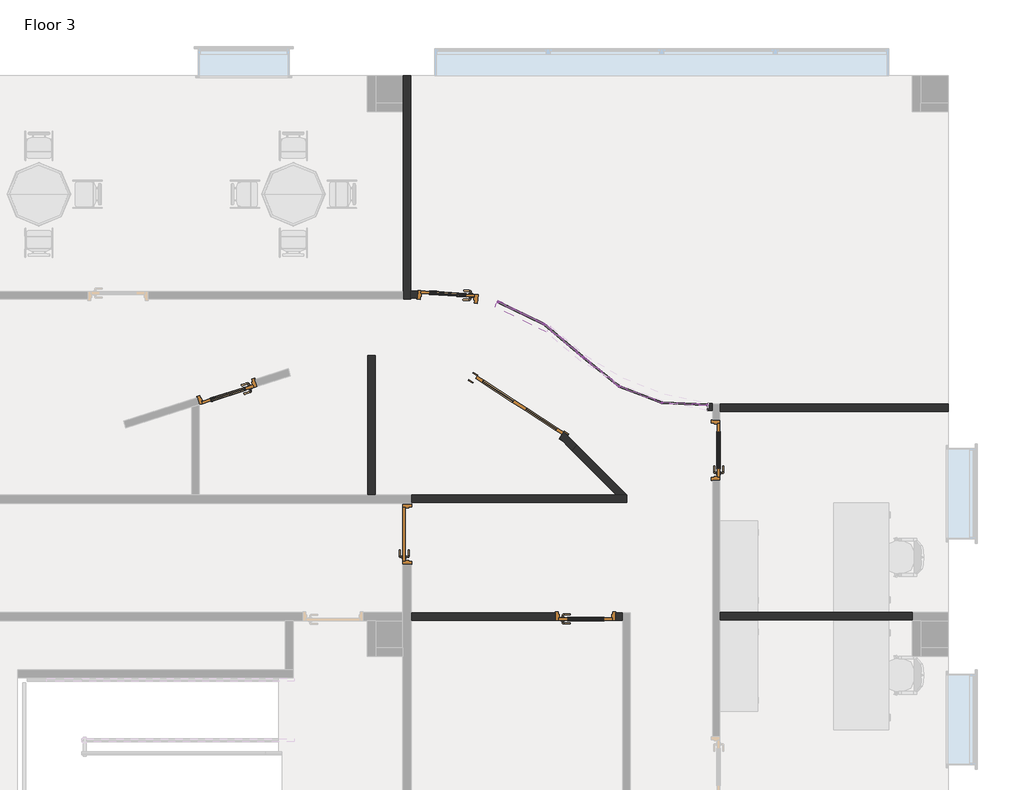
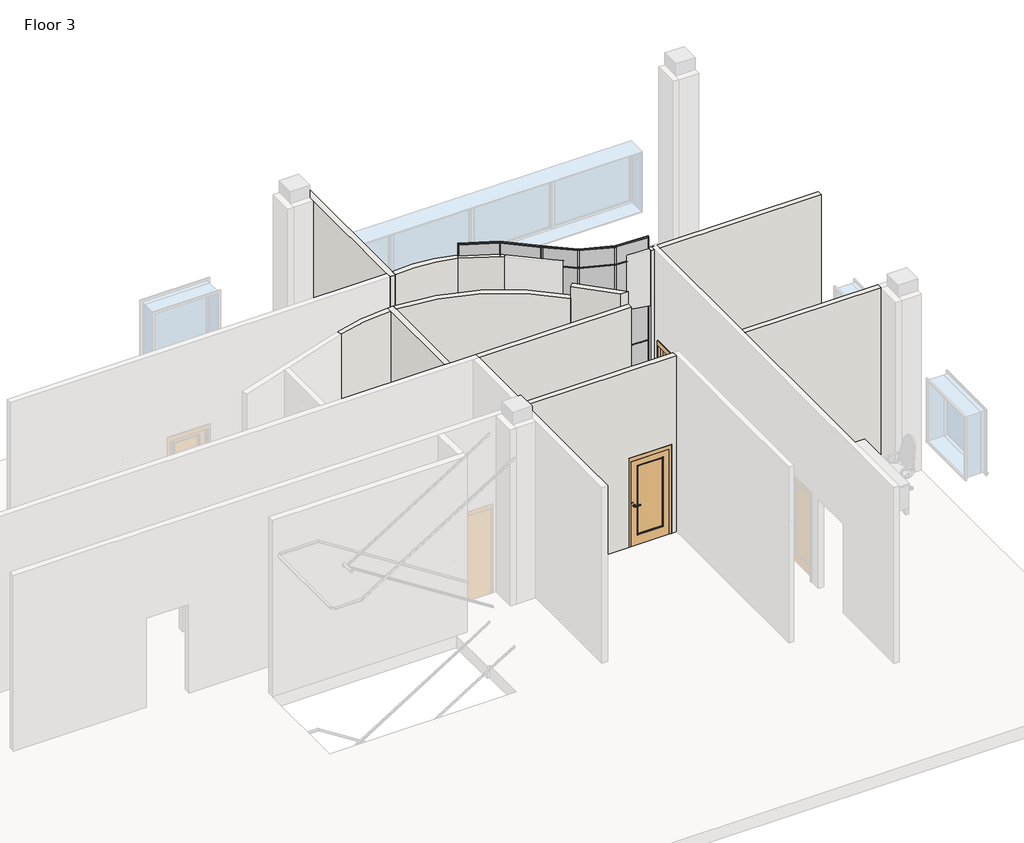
# One storey, part 4 of 6: 41 members, 15 plates, 12 walls, 6 doors.
"""IFC4 building model written with IfcOpenShell, lengths in millimetres."""

from ifc_helpers import new_model, si_unit, point, frame, frame_2d, origin, place, context, project, spatial, polyline, circle_curve, trimmed, segment, composite_curve, outline, extrude, faceted_brep, transform, mapped, element, save
from ifc_brep_helpers import plane_surface, cylinder_surface, revolved_surface, advanced_brep
from components import door_85c6249d, door_a46f4f49, door_b5f71497, door_dac99271, member_834e91f0, member_a9d6c361, member_b6f680d5, member_ea1833a9, member_997af995, member_99ddd2ca, member_efb85692, member_f42e476a, member_c703cf53, member_8995069b, member_6a737cc0, member_4057df82, member_b5c0ee63, member_2ca0dabc, member_3a403b9d, member_f4e4bb89, system_panel_glazed_970fcf6f, system_panel_glazed_1b99a4e4, system_panel_glazed_e012e687, system_panel_glazed_c5ee2139, system_panel_glazed_4739128b, system_panel_glazed_f263d929, system_panel_glazed_9a7f91f8, system_panel_glazed_b32ab771, system_panel_glazed_0122b756

model = new_model("IFC4")

# Units and contexts
model_context = context("Model", 3, world=origin())
ifc_project = project(units=[si_unit("LENGTHUNIT", "METRE", prefix="MILLI")], contexts=[model_context])

# Site, building, storey
site = spatial("IfcSite", under=ifc_project)
building = spatial("IfcBuilding", under=site)
storey = spatial("IfcBuildingStorey", under=building, Name="Floor 3", Elevation=10210.8)

# Doors
placement = place(None, origin())
door_shape = door_85c6249d(model_context)
element("IfcDoor", 1, ObjectType="Dbl Acting Dbl Glass 1 : 68\" x 84\"", at=placement, inside=storey, context=model_context, shape_type="MappedRepresentation", body=[
    mapped(door_shape, transform((54283.2279669, 51786.1208787, 10210.8), x_axis=(0.8403114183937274, -0.5421039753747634, 0.0), y_axis=(0.5421039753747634, 0.8403114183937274, 0.0), z_axis=(0.0, 0.0, 1.0))),
])
door_2_shape = door_a46f4f49(model_context)
element("IfcDoor", 2, ObjectType="Door-Passage-Single-Flush : 36\" x 84\"", at=placement, inside=storey, context=model_context, shape_type="MappedRepresentation", body=[
    mapped(door_2_shape, transform((52433.5692024, 49675.261889, 10210.8), x_axis=(0.0, 1.0, 0.0), y_axis=(-1.0, 0.0, 0.0), z_axis=(0.0, 0.0, 1.0))),
])
door_3_shape = door_b5f71497(model_context)
element("IfcDoor", 3, ObjectType="Door-Passage-Single-Full_Lite : 36\" x 84\"", at=placement, inside=storey, context=model_context, shape_type="MappedRepresentation", body=[
    mapped(door_3_shape, transform((53107.2341239, 53660.5521638, 10210.8), x_axis=(-0.9977672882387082, 0.06678651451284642, 0.0), y_axis=(-0.06678651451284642, -0.9977672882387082, 0.0), z_axis=(0.0, 0.0, 1.0))),
])
element("IfcDoor", 4, ObjectType="Door-Passage-Single-Full_Lite : 36\" x 84\"", at=placement, inside=storey, context=model_context, shape_type="MappedRepresentation", body=[
    mapped(door_3_shape, transform((57608.8192024, 51084.961889, 10210.8), x_axis=(0.0, 1.0, 0.0), y_axis=(-1.0, 0.0, 0.0), z_axis=(0.0, 0.0, 1.0))),
])
element("IfcDoor", 5, ObjectType="Door-Passage-Single-Full_Lite : 36\" x 84\"", at=placement, inside=storey, context=model_context, shape_type="MappedRepresentation", body=[
    mapped(door_3_shape, transform((55424.4192024, 48297.311889, 10210.8), x_axis=(1.0, 0.0, 0.0), y_axis=(0.0, 1.0, 0.0), z_axis=(0.0, 0.0, 1.0))),
])
door_4_shape = door_dac99271(model_context)
element("IfcDoor", 6, ObjectType="Door-Passage-Single-Full_Lite : 36\" x 84\"", at=placement, inside=storey, context=model_context, shape_type="MappedRepresentation", body=[
    mapped(door_4_shape, transform((49409.8382574, 52066.5551031, 10210.8), x_axis=(-0.9527579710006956, -0.303730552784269, 0.0), y_axis=(0.303730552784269, -0.9527579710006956, 0.0), z_axis=(0.0, 0.0, 1.0))),
])

# Members
member_shape = member_834e91f0(model_context)
element("IfcMember", 7, ObjectType="Rectangular Mullion1 : 1\" Square", at=placement, inside=storey, context=model_context, shape_type="MappedRepresentation", body=[
    mapped(member_shape, transform((55370.0845568, 52611.7453813, 14935.2), x_axis=(0.0, 0.0, 1.0), y_axis=(-0.6484934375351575, -0.7612202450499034, 0.0), z_axis=(0.7612202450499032, -0.6484934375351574, 0.0))),
])
member_2_shape = member_a9d6c361(model_context)
element("IfcMember", 8, ObjectType="Rectangular Mullion1 : 1\" Square", at=placement, inside=storey, context=model_context, shape_type="MappedRepresentation", body=[
    mapped(member_2_shape, transform((54710.7323367, 53173.4561221, 14935.2), x_axis=(0.0, 0.0, 1.0), y_axis=(-0.43160178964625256, -0.9020642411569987, 0.0), z_axis=(0.9020642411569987, -0.43160178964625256, 0.0))),
])
element("IfcMember", 9, ObjectType="Rectangular Mullion1 : 1\" Square", at=placement, inside=storey, context=model_context, shape_type="MappedRepresentation", body=[
    mapped(member_shape, transform((53929.3841475, 53547.3000917, 10210.8), x_axis=(0.0, 0.0, -1.0), y_axis=(-0.43160178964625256, -0.9020642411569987, 0.0), z_axis=(-0.9020642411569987, 0.43160178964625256, 0.0))),
])
element("IfcMember", 10, ObjectType="Rectangular Mullion1 : 1\" Square", at=placement, inside=storey, context=model_context, shape_type="MappedRepresentation", body=[
    mapped(member_2_shape, transform((54710.7323367, 53173.4561221, 10210.8), x_axis=(0.0, 0.0, -1.0), y_axis=(-0.6484934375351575, -0.7612202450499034, 0.0), z_axis=(-0.7612202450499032, 0.6484934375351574, 0.0))),
])
member_3_shape = member_b6f680d5(model_context)
element("IfcMember", 11, ObjectType="Rectangular Mullion1 : 1\" Square", at=placement, inside=storey, context=model_context, shape_type="MappedRepresentation", body=[
    mapped(member_3_shape, transform((54710.7323367, 53173.4561221, 12344.4), x_axis=(0.0, 0.0, 1.0), y_axis=(-0.43160178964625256, -0.9020642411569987, 0.0), z_axis=(0.9020642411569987, -0.43160178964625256, 0.0))),
])
member_4_shape = member_ea1833a9(model_context)
element("IfcMember", 12, ObjectType="Rectangular Mullion1 : 1\" Square", at=placement, inside=storey, context=model_context, shape_type="MappedRepresentation", body=[
    mapped(member_4_shape, transform((55350.7495626, 52628.2171146, 12344.4), x_axis=(0.0, 0.0, 1.0), y_axis=(-0.6484934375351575, -0.7612202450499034, 0.0), z_axis=(0.7612202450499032, -0.6484934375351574, 0.0))),
])
member_5_shape = member_997af995(model_context)
element("IfcMember", 13, ObjectType="Rectangular Mullion1 : 1\" Square", at=placement, inside=storey, context=model_context, shape_type="MappedRepresentation", body=[
    mapped(member_5_shape, transform((54710.7323367, 53173.4561221, 10236.2), x_axis=(0.8386830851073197, -0.5446197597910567, 0.0), y_axis=(-0.5446197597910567, -0.8386830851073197, 0.0), z_axis=(0.0, 0.0, -1.0))),
])
element("IfcMember", 14, ObjectType="Rectangular Mullion1 : 1\" Square", at=placement, inside=storey, context=model_context, shape_type="MappedRepresentation", body=[
    mapped(member_5_shape, transform((55973.7447178, 52125.501763, 10236.2), x_axis=(0.867376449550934, -0.4976525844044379, 0.0), y_axis=(-0.4976525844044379, -0.867376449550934, 0.0), z_axis=(0.0, 0.0, -1.0))),
])
element("IfcMember", 15, ObjectType="Rectangular Mullion1 : 1\" Square", at=placement, inside=storey, context=model_context, shape_type="MappedRepresentation", body=[
    mapped(member_5_shape, transform((56698.1784145, 51849.7586549, 10236.2), x_axis=(0.9787526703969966, -0.20504441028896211, 0.0), y_axis=(-0.20504441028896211, -0.9787526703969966, 0.0), z_axis=(0.0, 0.0, -1.0))),
])
member_6_shape = member_99ddd2ca(model_context)
element("IfcMember", 16, ObjectType="Rectangular Mullion1 : 1\" Square", at=placement, inside=storey, context=model_context, shape_type="MappedRepresentation", body=[
    mapped(member_6_shape, transform((54710.7323367, 53173.4561221, 12357.1), x_axis=(0.8386830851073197, -0.5446197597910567, 0.0), y_axis=(-0.5446197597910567, -0.8386830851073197, 0.0), z_axis=(0.0, 0.0, -1.0))),
])
element("IfcMember", 17, ObjectType="Rectangular Mullion1 : 1\" Square", at=placement, inside=storey, context=model_context, shape_type="MappedRepresentation", body=[
    mapped(member_6_shape, transform((55973.7447178, 52125.501763, 12357.1), x_axis=(0.867376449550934, -0.4976525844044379, 0.0), y_axis=(-0.4976525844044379, -0.867376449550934, 0.0), z_axis=(0.0, 0.0, -1.0))),
])
element("IfcMember", 18, ObjectType="Rectangular Mullion1 : 1\" Square", at=placement, inside=storey, context=model_context, shape_type="MappedRepresentation", body=[
    mapped(member_6_shape, transform((56698.1784145, 51849.7586549, 12357.1), x_axis=(0.9787526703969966, -0.20504441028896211, 0.0), y_axis=(-0.20504441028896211, -0.9787526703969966, 0.0), z_axis=(0.0, 0.0, -1.0))),
])
member_7_shape = member_efb85692(model_context)
element("IfcMember", 19, ObjectType="Rectangular Mullion1 : 1\" Square", at=placement, inside=storey, context=model_context, shape_type="MappedRepresentation", body=[
    mapped(member_7_shape, transform((54710.7323367, 53173.4561221, 14490.7), x_axis=(0.8386830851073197, -0.5446197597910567, 0.0), y_axis=(-0.5446197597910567, -0.8386830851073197, 0.0), z_axis=(0.0, 0.0, -1.0))),
])
element("IfcMember", 20, ObjectType="Rectangular Mullion1 : 1\" Square", at=placement, inside=storey, context=model_context, shape_type="MappedRepresentation", body=[
    mapped(member_7_shape, transform((55973.7447178, 52125.501763, 14490.7), x_axis=(0.867376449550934, -0.4976525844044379, 0.0), y_axis=(-0.4976525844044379, -0.867376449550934, 0.0), z_axis=(0.0, 0.0, -1.0))),
])
element("IfcMember", 21, ObjectType="Rectangular Mullion1 : 1\" Square", at=placement, inside=storey, context=model_context, shape_type="MappedRepresentation", body=[
    mapped(member_7_shape, transform((56698.1784145, 51849.7586549, 14490.7), x_axis=(0.9787526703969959, -0.20504441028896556, 0.0), y_axis=(-0.20504441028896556, -0.9787526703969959, 0.0), z_axis=(0.0, 0.0, -1.0))),
])
element("IfcMember", 22, ObjectType="Rectangular Mullion1 : 1\" Square", at=placement, inside=storey, context=model_context, shape_type="MappedRepresentation", body=[
    mapped(member_3_shape, transform((54710.7323367, 53173.4561221, 14478.0), x_axis=(0.0, 0.0, 1.0), y_axis=(-0.43160178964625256, -0.9020642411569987, 0.0), z_axis=(0.9020642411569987, -0.43160178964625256, 0.0))),
])
element("IfcMember", 23, ObjectType="Rectangular Mullion1 : 1\" Square", at=placement, inside=storey, context=model_context, shape_type="MappedRepresentation", body=[
    mapped(member_4_shape, transform((55350.7495626, 52628.2171146, 14478.0), x_axis=(0.0, 0.0, 1.0), y_axis=(-0.6484934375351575, -0.7612202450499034, 0.0), z_axis=(0.7612202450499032, -0.6484934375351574, 0.0))),
])
member_8_shape = member_f42e476a(model_context)
element("IfcMember", 24, ObjectType="Rectangular Mullion1 : 1\" Square", at=placement, inside=storey, context=model_context, shape_type="MappedRepresentation", body=[
    mapped(member_8_shape, transform((57472.373613, 51811.5455547, 14935.2), x_axis=(0.0, 0.0, 1.0), y_axis=(-0.049298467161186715, -0.9987840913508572, 0.0), z_axis=(0.9987840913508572, -0.049298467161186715, 0.0))),
])
member_9_shape = member_c703cf53(model_context)
element("IfcMember", 25, ObjectType="Rectangular Mullion1 : 1\" Square", at=placement, inside=storey, context=model_context, shape_type="MappedRepresentation", body=[
    mapped(member_9_shape, transform((55973.7447178, 52125.501763, 14935.2), x_axis=(0.0, 0.0, 1.0), y_axis=(-0.6272996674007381, -0.7787779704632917, 0.0), z_axis=(0.7787779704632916, -0.627299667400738, 0.0))),
])
member_10_shape = member_8995069b(model_context)
element("IfcMember", 26, ObjectType="Rectangular Mullion1 : 1\" Square", at=placement, inside=storey, context=model_context, shape_type="MappedRepresentation", body=[
    mapped(member_10_shape, transform((56698.1784145, 51849.7586549, 14935.2), x_axis=(0.0, 0.0, 1.0), y_axis=(-0.3557343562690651, -0.9345871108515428, 0.0), z_axis=(0.9345871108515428, -0.3557343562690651, 0.0))),
])
element("IfcMember", 27, ObjectType="Rectangular Mullion1 : 1\" Square", at=placement, inside=storey, context=model_context, shape_type="MappedRepresentation", body=[
    mapped(member_8_shape, transform((55370.0845568, 52611.7453813, 10210.8), x_axis=(0.0, 0.0, -1.0), y_axis=(-0.6272996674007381, -0.7787779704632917, 0.0), z_axis=(-0.7787779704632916, 0.627299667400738, 0.0))),
])
element("IfcMember", 28, ObjectType="Rectangular Mullion1 : 1\" Square", at=placement, inside=storey, context=model_context, shape_type="MappedRepresentation", body=[
    mapped(member_10_shape, transform((55973.7447178, 52125.501763, 10210.8), x_axis=(0.0, 0.0, -1.0), y_axis=(-0.3557343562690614, -0.9345871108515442, 0.0), z_axis=(-0.9345871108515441, 0.35573435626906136, 0.0))),
])
element("IfcMember", 29, ObjectType="Rectangular Mullion1 : 1\" Square", at=placement, inside=storey, context=model_context, shape_type="MappedRepresentation", body=[
    mapped(member_9_shape, transform((56698.1784145, 51849.7586549, 10210.8), x_axis=(0.0, 0.0, -1.0), y_axis=(-0.049298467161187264, -0.9987840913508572, 0.0), z_axis=(-0.9987840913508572, 0.049298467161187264, 0.0))),
])
member_11_shape = member_6a737cc0(model_context)
element("IfcMember", 30, ObjectType="Rectangular Mullion1 : 1\" Square", at=placement, inside=storey, context=model_context, shape_type="MappedRepresentation", body=[
    mapped(member_11_shape, transform((55973.7447178, 52125.501763, 12344.4), x_axis=(0.0, 0.0, 1.0), y_axis=(-0.6272996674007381, -0.7787779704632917, 0.0), z_axis=(0.7787779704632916, -0.627299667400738, 0.0))),
])
member_12_shape = member_4057df82(model_context)
element("IfcMember", 31, ObjectType="Rectangular Mullion1 : 1\" Square", at=placement, inside=storey, context=model_context, shape_type="MappedRepresentation", body=[
    mapped(member_12_shape, transform((56698.1784145, 51849.7586549, 12344.4), x_axis=(0.0, 0.0, 1.0), y_axis=(-0.3557343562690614, -0.9345871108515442, 0.0), z_axis=(0.9345871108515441, -0.35573435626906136, 0.0))),
])
element("IfcMember", 32, ObjectType="Rectangular Mullion1 : 1\" Square", at=placement, inside=storey, context=model_context, shape_type="MappedRepresentation", body=[
    mapped(member_12_shape, transform((56698.1784145, 51849.7586549, 14478.0), x_axis=(0.0, 0.0, 1.0), y_axis=(-0.3557343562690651, -0.9345871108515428, 0.0), z_axis=(0.9345871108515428, -0.3557343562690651, 0.0))),
])
member_13_shape = member_b5c0ee63(model_context)
element("IfcMember", 33, ObjectType="Rectangular Mullion1 : 1\" Square", at=placement, inside=storey, context=model_context, shape_type="MappedRepresentation", body=[
    mapped(member_13_shape, transform((57447.0044971, 51812.7977357, 12344.4), x_axis=(0.0, 0.0, 1.0), y_axis=(-0.049298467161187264, -0.9987840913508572, 0.0), z_axis=(0.9987840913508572, -0.049298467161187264, 0.0))),
])
element("IfcMember", 34, ObjectType="Rectangular Mullion1 : 1\" Square", at=placement, inside=storey, context=model_context, shape_type="MappedRepresentation", body=[
    mapped(member_11_shape, transform((55973.7447178, 52125.501763, 14478.0), x_axis=(0.0, 0.0, 1.0), y_axis=(-0.6272996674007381, -0.7787779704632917, 0.0), z_axis=(0.7787779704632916, -0.627299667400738, 0.0))),
])
element("IfcMember", 35, ObjectType="Rectangular Mullion1 : 1\" Square", at=placement, inside=storey, context=model_context, shape_type="MappedRepresentation", body=[
    mapped(member_13_shape, transform((57447.0044971, 51812.7977357, 14478.0), x_axis=(0.0, 0.0, 1.0), y_axis=(-0.049298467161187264, -0.9987840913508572, 0.0), z_axis=(0.9987840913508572, -0.049298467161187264, 0.0))),
])
member_14_shape = member_2ca0dabc(model_context)
element("IfcMember", 36, ObjectType="Rectangular Mullion1 : 1\" Square", at=placement, inside=storey, context=model_context, shape_type="MappedRepresentation", body=[
    mapped(member_14_shape, transform((55370.0845568, 52611.7453813, 10236.2), x_axis=(0.7612202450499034, -0.6484934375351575, 0.0), y_axis=(-0.6484934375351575, -0.7612202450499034, 0.0), z_axis=(0.0, 0.0, -1.0))),
])
element("IfcMember", 37, ObjectType="Rectangular Mullion1 : 1\" Square", at=placement, inside=storey, context=model_context, shape_type="MappedRepresentation", body=[
    mapped(member_14_shape, transform((57472.373613, 51811.5455547, 10236.2), x_axis=(0.9987840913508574, -0.0492984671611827, 0.0), y_axis=(-0.0492984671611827, -0.9987840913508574, 0.0), z_axis=(0.0, 0.0, -1.0))),
])
member_15_shape = member_3a403b9d(model_context)
element("IfcMember", 38, ObjectType="Rectangular Mullion1 : 1\" Square", at=placement, inside=storey, context=model_context, shape_type="MappedRepresentation", body=[
    mapped(member_15_shape, transform((55370.0845568, 52611.7453813, 12344.4), x_axis=(0.7612202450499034, -0.6484934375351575, 0.0), y_axis=(-0.6484934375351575, -0.7612202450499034, 0.0), z_axis=(0.0, 0.0, -1.0))),
])
element("IfcMember", 39, ObjectType="Rectangular Mullion1 : 1\" Square", at=placement, inside=storey, context=model_context, shape_type="MappedRepresentation", body=[
    mapped(member_15_shape, transform((57472.373613, 51811.5455547, 12344.4), x_axis=(0.9987840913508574, -0.0492984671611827, 0.0), y_axis=(-0.0492984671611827, -0.9987840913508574, 0.0), z_axis=(0.0, 0.0, -1.0))),
])
member_16_shape = member_f4e4bb89(model_context)
element("IfcMember", 40, ObjectType="Rectangular Mullion1 : 1\" Square", at=placement, inside=storey, context=model_context, shape_type="MappedRepresentation", body=[
    mapped(member_16_shape, transform((53929.3841475, 53547.3000917, 14909.8), x_axis=(-0.9020642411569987, 0.43160178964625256, 0.0), y_axis=(-0.43160178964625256, -0.9020642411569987, 0.0), z_axis=(0.0, 0.0, 1.0))),
])
element("IfcMember", 41, ObjectType="Rectangular Mullion1 : 1\" Square", at=placement, inside=storey, context=model_context, shape_type="MappedRepresentation", body=[
    mapped(member_16_shape, transform((55370.0845568, 52611.7453813, 14909.8), x_axis=(-0.7787779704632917, 0.6272996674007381, 0.0), y_axis=(-0.6272996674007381, -0.7787779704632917, 0.0), z_axis=(0.0, 0.0, 1.0))),
])
element("IfcMember", 42, ObjectType="Rectangular Mullion1 : 1\" Square", at=placement, inside=storey, context=model_context, shape_type="MappedRepresentation", body=[
    mapped(member_14_shape, transform((53929.3841475, 53547.3000917, 12344.4), x_axis=(-0.9020642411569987, 0.43160178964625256, 0.0), y_axis=(-0.43160178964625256, -0.9020642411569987, 0.0), z_axis=(0.0, 0.0, 1.0))),
])
element("IfcMember", 43, ObjectType="Rectangular Mullion1 : 1\" Square", at=placement, inside=storey, context=model_context, shape_type="MappedRepresentation", body=[
    mapped(member_14_shape, transform((55370.0845568, 52611.7453813, 12344.4), x_axis=(-0.7787779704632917, 0.6272996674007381, 0.0), y_axis=(-0.6272996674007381, -0.7787779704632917, 0.0), z_axis=(0.0, 0.0, 1.0))),
])
element("IfcMember", 44, ObjectType="Rectangular Mullion1 : 1\" Square", at=placement, inside=storey, context=model_context, shape_type="MappedRepresentation", body=[
    mapped(member_16_shape, transform((55370.0845568, 52611.7453813, 14478.0), x_axis=(0.7612202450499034, -0.6484934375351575, 0.0), y_axis=(-0.6484934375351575, -0.7612202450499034, 0.0), z_axis=(0.0, 0.0, -1.0))),
])
element("IfcMember", 45, ObjectType="Rectangular Mullion1 : 1\" Square", at=placement, inside=storey, context=model_context, shape_type="MappedRepresentation", body=[
    mapped(member_16_shape, transform((57472.373613, 51811.5455547, 14478.0), x_axis=(0.9987840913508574, -0.049298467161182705, 0.0), y_axis=(-0.049298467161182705, -0.9987840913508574, 0.0), z_axis=(0.0, 0.0, -1.0))),
])
element("IfcMember", 46, ObjectType="Rectangular Mullion1 : 1\" Square", at=placement, inside=storey, context=model_context, shape_type="MappedRepresentation", body=[
    mapped(member_15_shape, transform((53929.3841475, 53547.3000917, 14478.0), x_axis=(-0.9020642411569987, 0.43160178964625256, 0.0), y_axis=(-0.43160178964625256, -0.9020642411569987, 0.0), z_axis=(0.0, 0.0, 1.0))),
])
element("IfcMember", 47, ObjectType="Rectangular Mullion1 : 1\" Square", at=placement, inside=storey, context=model_context, shape_type="MappedRepresentation", body=[
    mapped(member_15_shape, transform((55370.0845568, 52611.7453813, 14478.0), x_axis=(-0.7787779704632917, 0.6272996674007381, 0.0), y_axis=(-0.6272996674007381, -0.7787779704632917, 0.0), z_axis=(0.0, 0.0, 1.0))),
])

# Plates
system_panel_glazed_shape = system_panel_glazed_970fcf6f(model_context)
element("IfcPlate", 48, ObjectType="System Panel : Glazed", at=placement, inside=storey, context=model_context, shape_type="MappedRepresentation", body=[
    mapped(system_panel_glazed_shape, transform((54325.7863501, 53357.6374355, 10236.2), x_axis=(0.9020642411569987, -0.43160178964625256, 0.0), y_axis=(0.43160178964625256, 0.9020642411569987, 0.0), z_axis=(0.0, 0.0, 1.0))),
])
element("IfcPlate", 49, ObjectType="System Panel : Glazed", at=placement, inside=storey, context=model_context, shape_type="MappedRepresentation", body=[
    mapped(system_panel_glazed_shape, transform((55035.5746982, 52896.718685, 10236.2), x_axis=(0.7612202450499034, -0.6484934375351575, 0.0), y_axis=(0.6484934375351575, 0.7612202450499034, 0.0), z_axis=(0.0, 0.0, 1.0))),
])
system_panel_glazed_2_shape = system_panel_glazed_1b99a4e4(model_context)
element("IfcPlate", 50, ObjectType="System Panel : Glazed", at=placement, inside=storey, context=model_context, shape_type="MappedRepresentation", body=[
    mapped(system_panel_glazed_2_shape, transform((54325.7863501, 53357.6374355, 12357.1), x_axis=(0.9020642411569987, -0.43160178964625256, 0.0), y_axis=(0.43160178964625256, 0.9020642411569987, 0.0), z_axis=(0.0, 0.0, 1.0))),
])
element("IfcPlate", 51, ObjectType="System Panel : Glazed", at=placement, inside=storey, context=model_context, shape_type="MappedRepresentation", body=[
    mapped(system_panel_glazed_2_shape, transform((55035.5746982, 52896.718685, 12357.1), x_axis=(0.7612202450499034, -0.6484934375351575, 0.0), y_axis=(0.6484934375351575, 0.7612202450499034, 0.0), z_axis=(0.0, 0.0, 1.0))),
])
system_panel_glazed_3_shape = system_panel_glazed_e012e687(model_context)
element("IfcPlate", 52, ObjectType="System Panel : Glazed", at=placement, inside=storey, context=model_context, shape_type="MappedRepresentation", body=[
    mapped(system_panel_glazed_3_shape, transform((55676.8598774, 52364.6402193, 10236.2), x_axis=(0.7787779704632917, -0.6272996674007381, 0.0), y_axis=(0.6272996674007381, 0.7787779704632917, 0.0), z_axis=(0.0, 0.0, 1.0))),
])
element("IfcPlate", 53, ObjectType="System Panel : Glazed", at=placement, inside=storey, context=model_context, shape_type="MappedRepresentation", body=[
    mapped(system_panel_glazed_3_shape, transform((57078.9337348, 51830.96515, 10236.2), x_axis=(0.9987840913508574, -0.0492984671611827, 0.0), y_axis=(0.0492984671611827, 0.9987840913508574, 0.0), z_axis=(0.0, 0.0, 1.0))),
])
system_panel_glazed_4_shape = system_panel_glazed_c5ee2139(model_context)
element("IfcPlate", 54, ObjectType="System Panel : Glazed", at=placement, inside=storey, context=model_context, shape_type="MappedRepresentation", body=[
    mapped(system_panel_glazed_4_shape, transform((56335.9615662, 51987.6302089, 10236.2), x_axis=(0.9345871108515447, -0.35573435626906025, 0.0), y_axis=(0.35573435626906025, 0.9345871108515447, 0.0), z_axis=(0.0, 0.0, 1.0))),
])
system_panel_glazed_5_shape = system_panel_glazed_4739128b(model_context)
element("IfcPlate", 55, ObjectType="System Panel : Glazed", at=placement, inside=storey, context=model_context, shape_type="MappedRepresentation", body=[
    mapped(system_panel_glazed_5_shape, transform((55676.8598774, 52364.6402193, 12357.1), x_axis=(0.7787779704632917, -0.6272996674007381, 0.0), y_axis=(0.6272996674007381, 0.7787779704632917, 0.0), z_axis=(0.0, 0.0, 1.0))),
])
element("IfcPlate", 56, ObjectType="System Panel : Glazed", at=placement, inside=storey, context=model_context, shape_type="MappedRepresentation", body=[
    mapped(system_panel_glazed_5_shape, transform((57078.9337348, 51830.96515, 12357.1), x_axis=(0.9987840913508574, -0.0492984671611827, 0.0), y_axis=(0.0492984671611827, 0.9987840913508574, 0.0), z_axis=(0.0, 0.0, 1.0))),
])
system_panel_glazed_6_shape = system_panel_glazed_f263d929(model_context)
element("IfcPlate", 57, ObjectType="System Panel : Glazed", at=placement, inside=storey, context=model_context, shape_type="MappedRepresentation", body=[
    mapped(system_panel_glazed_6_shape, transform((56335.9615662, 51987.6302089, 12357.1), x_axis=(0.9345871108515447, -0.35573435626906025, 0.0), y_axis=(0.35573435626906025, 0.9345871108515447, 0.0), z_axis=(0.0, 0.0, 1.0))),
])
system_panel_glazed_7_shape = system_panel_glazed_9a7f91f8(model_context)
element("IfcPlate", 58, ObjectType="System Panel : Glazed", at=placement, inside=storey, context=model_context, shape_type="MappedRepresentation", body=[
    mapped(system_panel_glazed_7_shape, transform((54325.7863501, 53357.6374355, 14490.7), x_axis=(0.9020642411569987, -0.43160178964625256, 0.0), y_axis=(0.43160178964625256, 0.9020642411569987, 0.0), z_axis=(0.0, 0.0, 1.0))),
])
element("IfcPlate", 59, ObjectType="System Panel : Glazed", at=placement, inside=storey, context=model_context, shape_type="MappedRepresentation", body=[
    mapped(system_panel_glazed_7_shape, transform((55035.5746982, 52896.718685, 14490.7), x_axis=(0.7612202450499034, -0.6484934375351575, 0.0), y_axis=(0.6484934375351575, 0.7612202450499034, 0.0), z_axis=(0.0, 0.0, 1.0))),
])
system_panel_glazed_8_shape = system_panel_glazed_b32ab771(model_context)
element("IfcPlate", 60, ObjectType="System Panel : Glazed", at=placement, inside=storey, context=model_context, shape_type="MappedRepresentation", body=[
    mapped(system_panel_glazed_8_shape, transform((55676.8598774, 52364.6402193, 14490.7), x_axis=(0.7787779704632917, -0.6272996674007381, 0.0), y_axis=(0.6272996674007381, 0.7787779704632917, 0.0), z_axis=(0.0, 0.0, 1.0))),
])
element("IfcPlate", 61, ObjectType="System Panel : Glazed", at=placement, inside=storey, context=model_context, shape_type="MappedRepresentation", body=[
    mapped(system_panel_glazed_8_shape, transform((57078.9337348, 51830.96515, 14490.7), x_axis=(0.9987840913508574, -0.049298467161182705, 0.0), y_axis=(0.049298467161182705, 0.9987840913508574, 0.0), z_axis=(0.0, 0.0, 1.0))),
])
system_panel_glazed_9_shape = system_panel_glazed_0122b756(model_context)
element("IfcPlate", 62, ObjectType="System Panel : Glazed", at=placement, inside=storey, context=model_context, shape_type="MappedRepresentation", body=[
    mapped(system_panel_glazed_9_shape, transform((56335.9615662, 51987.6302089, 14490.7), x_axis=(0.9345871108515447, -0.35573435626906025, 0.0), y_axis=(0.35573435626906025, 0.9345871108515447, 0.0), z_axis=(0.0, 0.0, 1.0))),
])

# Walls
element("IfcWall", 63, ObjectType="Interior - 4 7/8\" Partition (1-hr)", at=placement, inside=storey, context=model_context, shape_type="Brep", body=[
    faceted_brep([(52489.1317024, 53620.199389, 10210.8), (52489.1317024, 53627.7357637, 10210.8), (52489.1317024, 53752.4422892, 10210.8), (52489.1317024, 57366.699389, 10210.8), (52489.1317024, 57366.699389, 14630.4), (52489.1317024, 53752.4422892, 14630.4), (52489.1317024, 53627.7357637, 14630.4), (52489.1317024, 53620.199389, 14630.4), (52365.3067024, 53620.199389, 10210.8), (52365.3067024, 53620.199389, 14630.4), (52365.3067024, 53744.024389, 14630.4), (52365.3067024, 56768.211889, 14630.4), (52365.3067024, 56907.911889, 14630.4), (52365.3067024, 57366.699389, 14630.4), (52365.3067024, 57366.699389, 10210.8), (52365.3067024, 56907.911889, 10210.8), (52365.3067024, 56768.211889, 10210.8), (52365.3067024, 53744.024389, 10210.8)], [[[0, 1, 2, 3, 4, 5, 6, 7]], [[8, 9, 10, 11, 12, 13, 14, 15, 16, 17]], [[3, 2, 1, 0, 8, 17, 16, 15, 14]], [[0, 7, 9, 8]], [[4, 3, 14, 13]], [[7, 6, 5, 4, 13, 12, 11, 10, 9]]]),
])
element("IfcWall", 64, ObjectType="Interior - 4 7/8\" Partition (1-hr)", at=placement, inside=storey, context=model_context, shape_type="SweptSolid", body=[
    extrude(outline(polyline([(61502.9567024, 51734.249389), (57677.0817024, 51734.249389), (57677.0817024, 51858.074389), (61502.9567024, 51858.074389), (61502.9567024, 51734.249389)])), frame((0.0, 0.0, 10210.8), z_axis=(0.0, 0.0, 1.0), x_axis=(1.0, 0.0, 0.0)), (0.0, 0.0, 1.0), 4419.6),
])
element("IfcWall", 65, ObjectType="Interior - 4 7/8\" Partition (1-hr)", at=placement, inside=storey, context=model_context, shape_type="SweptSolid", body=[
    extrude(outline(polyline([(57677.0817024, 48360.811889), (60904.4692024, 48360.811889), (60904.4692024, 48236.986889), (57677.0817024, 48236.986889), (57677.0817024, 48360.811889)])), frame((0.0, 0.0, 10210.8), z_axis=(0.0, 0.0, 1.0), x_axis=(1.0, 0.0, 0.0)), (0.0, 0.0, 1.0), 4419.6),
])
element("IfcWall", 66, ObjectType="Interior - 4 7/8\" Partition (1-hr)", at=placement, inside=storey, context=model_context, shape_type="AdvancedBrep", body=[
    advanced_brep(
    [(52489.1317024, 53752.4422892, 10210.8), (52605.0241832, 53764.0363688, 10210.8), (52596.6575157, 53639.0412683, 10210.8), (52489.1317024, 53627.7357637, 10210.8), (53618.755748, 53696.1812701, 10210.8), (53948.6598073, 53606.1355113, 10210.8), (53910.1084878, 53488.4646722, 10210.8), (53610.3890806, 53571.1861695, 10210.8), (52605.0241832, 53764.0363688, 12446.0), (52489.1317024, 53752.4422892, 14630.4), (53948.6598073, 53606.1355113, 14630.4), (53948.6598073, 53606.1355113, 13258.8), (53618.755748, 53696.1812701, 12446.0), (52596.6575157, 53639.0412683, 12446.0), (53610.3890806, 53571.1861695, 12446.0), (53910.1084878, 53488.4646722, 13258.8), (53910.1084878, 53488.4646722, 14630.4), (52489.1317024, 53627.7357637, 14630.4)],
    [
        (0, 1, circle_curve(frame((52886.6031482, 50364.4021575, 10210.8), z_axis=(0.0, 0.0, -1.0), x_axis=(1.0, 0.0, 0.0)), 3411.2753457)),
        (1, 2),
        (2, 3, circle_curve(frame((52886.6031482, 50364.4021575, 10210.8), z_axis=(0.0, 0.0, 1.0), x_axis=(1.0, 0.0, 0.0)), 3287.4503457)),
        (3, 0),
        (4, 5, circle_curve(frame((52886.6031482, 50364.4021575, 10210.8), z_axis=(0.0, 0.0, -1.0), x_axis=(1.0, 0.0, 0.0)), 3411.2753457)),
        (5, 6),
        (6, 7, circle_curve(frame((52886.6031482, 50364.4021575, 10210.8), z_axis=(0.0, 0.0, 1.0), x_axis=(1.0, 0.0, 0.0)), 3287.4503457)),
        (7, 4),
        (8, 1),
        (0, 9),
        (9, 10, circle_curve(frame((52886.6031482, 50364.4021575, 14630.4), z_axis=(0.0, 0.0, -1.0), x_axis=(1.0, 0.0, 0.0)), 3411.2753457)),
        (10, 11),
        (11, 5),
        (4, 12),
        (12, 8, circle_curve(frame((52886.6031482, 50364.4021575, 12446.0), z_axis=(0.0, 0.0, 1.0), x_axis=(1.0, 0.0, 0.0)), 3411.2753457)),
        (2, 13),
        (13, 14, circle_curve(frame((52886.6031482, 50364.4021575, 12446.0), z_axis=(0.0, 0.0, -1.0), x_axis=(1.0, 0.0, 0.0)), 3287.4503457)),
        (14, 7),
        (6, 15),
        (15, 16),
        (16, 17, circle_curve(frame((52886.6031482, 50364.4021575, 14630.4), z_axis=(0.0, 0.0, 1.0), x_axis=(1.0, 0.0, 0.0)), 3287.4503457)),
        (17, 3),
        (10, 16),
        (17, 9),
        (8, 13),
        (12, 14),
    ],
    [
        plane_surface(frame((56297.878494, 50364.4021575, 10210.8), z_axis=(0.0, 0.0, -1.0), x_axis=(0.0, -1.0, 0.0))),
        cylinder_surface(frame((52886.6031482, 50364.4021575, 10210.8), z_axis=(0.0, 0.0, 1.0), x_axis=(1.0, 0.0, 0.0)), 3411.2753457),
        revolved_surface(polyline([(56174.053493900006, 50364.4021575, 10210.8), (56174.053493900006, 50364.4021575, 14630.4)]), (52886.6031482, 50364.4021575, 10210.8), (0.0, 0.0, -1.0)),
        plane_surface(frame((53910.1084878, 53488.4646722, 14630.4), z_axis=(0.9502995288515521, -0.3113371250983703, 0.0), x_axis=(0.0, 0.0, -1.0))),
        plane_surface(frame((52489.1317024, 56501.511889, 10210.8), z_axis=(-1.0, 0.0, 0.0), x_axis=(0.0, 1.0, 0.0))),
        plane_surface(frame((61502.9567024, 57366.699389, 14630.4), z_axis=(0.0, 0.0, 1.0), x_axis=(0.0, -1.0, 0.0))),
        plane_surface(frame((52596.6575157, 53639.0412683, 10210.8), z_axis=(0.9977672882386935, -0.06678651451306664, 0.0), x_axis=(0.06678651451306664, 0.9977672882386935, 0.0))),
        plane_surface(frame((52596.6575157, 53639.0412683, 12446.0), z_axis=(0.0, 0.0, -1.0), x_axis=(0.06678651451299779, 0.9977672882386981, 0.0))),
        plane_surface(frame((53610.3890806, 53571.1861695, 12446.0), z_axis=(-0.9977672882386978, 0.0667865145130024, 0.0), x_axis=(0.0667865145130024, 0.9977672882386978, 0.0))),
    ],
    [
        (0, [[1, 2, 3, 4]]),
        (0, [[5, 6, 7, 8]]),
        (1, [[9, -1, 10, 11, 12, 13, -5, 14, 15]]),
        (2, [[-3, 16, 17, 18, -7, 19, 20, 21, 22]]),
        (3, [[23, -20, -19, -6, -13, -12]]),
        (4, [[24, -10, -4, -22]]),
        (5, [[-11, -24, -21, -23]]),
        (6, [[-16, -2, -9, 25]]),
        (7, [[-17, -25, -15, 26]]),
        (8, [[-18, -26, -14, -8]]),
    ],
),
])
element("IfcWall", 67, ObjectType="Interior - 4 7/8\" Partition (1-hr)", at=placement, inside=storey, context=model_context, shape_type="Brep", body=[
    faceted_brep([(52497.0692024, 50205.486889, 10210.8), (56114.88023, 50205.486889, 10210.8), (56114.88023, 50205.486889, 14630.4), (52497.0692024, 50205.486889, 14630.4), (52497.0692024, 50329.311889, 10210.8), (52497.0692024, 50329.311889, 14630.4), (56114.88023, 50329.311889, 14630.4), (56114.88023, 50329.311889, 10210.8), (55939.7652356, 50329.311889, 10210.8)], [[[0, 1, 2, 3]], [[4, 5, 6, 7, 8]], [[1, 0, 4, 8, 7]], [[2, 1, 7, 6]], [[0, 3, 5, 4]], [[3, 2, 6, 5]]]),
])
element("IfcWall", 68, ObjectType="Interior - 4 7/8\" Partition (1-hr)", at=placement, inside=storey, context=model_context, shape_type="AdvancedBrep", body=[
    advanced_brep(
    [(51768.4067024, 52670.6379146, 10210.8), (51768.4067024, 52546.7940419, 10210.8), (51768.4067024, 50329.311889, 10210.8), (51768.4067024, 50329.311889, 14630.4), (51768.4067024, 52546.7940419, 14630.4), (51768.4067024, 52670.6379146, 14630.4), (51892.2317024, 52671.1252222, 10210.8), (51892.2317024, 52671.1252222, 14630.4), (51892.2317024, 52547.2946572, 14630.4), (51892.2317024, 50329.311889, 14630.4), (51892.2317024, 50329.311889, 10210.8), (51892.2317024, 52547.2946572, 10210.8)],
    [
        (0, 1),
        (1, 2),
        (2, 3),
        (3, 4),
        (4, 5),
        (5, 0),
        (6, 7),
        (7, 8),
        (8, 9),
        (9, 10),
        (10, 11),
        (11, 6),
        (0, 6, circle_curve(frame((51848.6528239, 48012.303706, 10210.8), z_axis=(0.0, 0.0, -1.0), x_axis=(1.0, 0.0, 0.0)), 4659.0253314)),
        (10, 2),
        (5, 7, circle_curve(frame((51848.6528239, 48012.303706, 14630.4), z_axis=(0.0, 0.0, -1.0), x_axis=(1.0, 0.0, 0.0)), 4659.0253314)),
        (9, 3),
    ],
    [
        plane_surface(frame((51768.4067024, 52536.7912825, 10210.8), z_axis=(-1.0, 0.0, 0.0), x_axis=(0.0, -1.0, 0.0))),
        plane_surface(frame((51892.2317024, 52536.7912825, 10210.8), z_axis=(1.0, 0.0, 0.0), x_axis=(0.0, 1.0, 0.0))),
        plane_surface(frame((51768.4067024, 52609.3799794, 10210.8), z_axis=(0.0, 0.0, -1.0), x_axis=(1.0, 0.0, 0.0))),
        cylinder_surface(frame((51848.6528239, 48012.303706, 10210.8), z_axis=(0.0, 0.0, 1.0), x_axis=(1.0, 0.0, 0.0)), 4659.0253314),
        plane_surface(frame((10723.2526119, 50329.311889, 10210.8), z_axis=(0.0, -1.0, 0.0), x_axis=(-1.0, 0.0, 0.0))),
        plane_surface(frame((61502.9567024, 57366.699389, 14630.4), z_axis=(0.0, 0.0, 1.0), x_axis=(0.0, -1.0, 0.0))),
    ],
    [
        (0, [[1, 2, 3, 4, 5, 6]]),
        (1, [[7, 8, 9, 10, 11, 12]]),
        (2, [[-2, -1, 13, -12, -11, 14]]),
        (3, [[-6, 15, -7, -13]]),
        (4, [[-3, -14, -10, 16]]),
        (5, [[-5, -4, -16, -9, -8, -15]]),
    ],
),
])
element("IfcWall", 69, ObjectType="Interior - 4 7/8\" Partition (1-hr)", at=placement, inside=storey, context=model_context, shape_type="AdvancedBrep", body=[
    advanced_brep(
    [(57618.0176704, 51858.074389, 10210.8), (57553.2567024, 51858.074389, 10210.8), (57553.2567024, 51740.023538, 10210.8), (57464.7777308, 51750.1007808, 10210.8), (57479.9694951, 51872.9903285, 10210.8), (57479.9694951, 51872.9903285, 14630.4), (57618.0176704, 51858.074389, 14630.4), (57479.9694951, 51872.9903285, 13258.8), (57464.7777308, 51750.1007808, 14630.4), (57464.7777308, 51750.1007808, 13258.8), (57553.2567024, 51740.023538, 14630.4), (57553.2567024, 51858.074389, 14630.4)],
    [
        (0, 1),
        (1, 2),
        (2, 3, circle_curve(frame((58034.3100922, 56357.174244, 10210.8), z_axis=(0.0, 0.0, -1.0), x_axis=(1.0, 0.0, 0.0)), 4642.1431479)),
        (3, 4),
        (4, 0, circle_curve(frame((58034.3100922, 56357.174244, 10210.8), z_axis=(0.0, 0.0, 1.0), x_axis=(1.0, 0.0, 0.0)), 4518.3181479)),
        (5, 6, circle_curve(frame((58034.3100922, 56357.174244, 14630.4), z_axis=(0.0, 0.0, 1.0), x_axis=(1.0, 0.0, 0.0)), 4518.3181479)),
        (6, 0),
        (4, 7),
        (7, 5),
        (8, 5),
        (3, 9),
        (9, 8),
        (10, 8, circle_curve(frame((58034.3100922, 56357.174244, 14630.4), z_axis=(0.0, 0.0, -1.0), x_axis=(1.0, 0.0, 0.0)), 4642.1431479)),
        (2, 10),
        (6, 11),
        (11, 1),
        (11, 10),
    ],
    [
        plane_surface(frame((62552.6282401, 56357.174244, 10210.8), z_axis=(0.0, 0.0, -1.0), x_axis=(0.0, 1.0, 0.0))),
        revolved_surface(polyline([(62552.6282401, 56357.174244, 10210.8), (62552.6282401, 56357.174244, 14630.4)]), (58034.3100922, 56357.174244, 10210.8), (0.0, 0.0, -1.0)),
        plane_surface(frame((57479.9694951, 51872.9903285, 14630.4), z_axis=(-0.9924453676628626, 0.12268737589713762, 0.0), x_axis=(0.0, 0.0, -1.0))),
        cylinder_surface(frame((58034.3100922, 56357.174244, 10210.8), z_axis=(0.0, 0.0, 1.0), x_axis=(1.0, 0.0, 0.0)), 4642.1431479),
        plane_surface(frame((59641.6129524, 51858.074389, 9989.82), z_axis=(0.0, -1.0, 0.0), x_axis=(1.0, 0.0, 0.0))),
        plane_surface(frame((57553.2567024, 46848.718139, 9989.82), z_axis=(1.0, 0.0, 0.0), x_axis=(0.0, 1.0, 0.0))),
        plane_surface(frame((61502.9567024, 57366.699389, 14630.4), z_axis=(0.0, 0.0, 1.0), x_axis=(0.0, -1.0, 0.0))),
    ],
    [
        (0, [[1, 2, 3, 4, 5]]),
        (1, [[6, 7, -5, 8, 9]]),
        (2, [[10, -9, -8, -4, 11, 12]]),
        (3, [[13, -12, -11, -3, 14]]),
        (4, [[15, 16, -1, -7]]),
        (5, [[17, -14, -2, -16]]),
        (6, [[-6, -10, -13, -17, -15]]),
    ],
),
])
element("IfcWall", 70, ObjectType="Interior - 4 7/8\" Partition (1-hr)", at=placement, inside=storey, context=model_context, shape_type="SweptSolid", body=[
    extrude(outline(composite_curve([segment(polyline([(54842.0110072, 53159.6086954), (54762.3068905, 53064.2290495)]), True, "CONTINUOUS"), segment(trimmed(circle_curve(frame_2d((52886.6031482, 50364.4021575)), 3287.4503457), [point((54762.3068905, 53064.2290495))], [point((53910.1084878, 53488.4646722))], True, "CARTESIAN"), True, "CONTINUOUS"), segment(polyline([(53910.1084878, 53488.4646722), (53948.6598073, 53606.1355113)]), True, "CONTINUOUS"), segment(trimmed(circle_curve(frame_2d((52886.6031482, 50364.4021575)), 3411.2753457), [point((53948.6598073, 53606.1355113))], [point((54842.0110072, 53159.6086954))], False, "CARTESIAN"), True, "CONTINUOUS")], self_intersect=False)), frame((0.0, 0.0, 13258.8), z_axis=(0.0, 0.0, 1.0), x_axis=(1.0, 0.0, 0.0)), (0.0, 0.0, 1.0), 1371.6),
])
element("IfcWall", 71, ObjectType="Interior - 4 7/8\" Partition (1-hr)", at=placement, inside=storey, context=model_context, shape_type="AdvancedBrep", body=[
    advanced_brep(
    [(55186.9466259, 51082.1304987, 10210.8), (54987.9103527, 51285.3915773, 10210.8), (55056.2533612, 51391.3295763, 10210.8), (55276.3250704, 51167.8670486, 10210.8), (53536.5244709, 52221.7135636, 10210.8), (51892.2317024, 52547.2946572, 10210.8), (51892.2317024, 52671.1252222, 10210.8), (53604.8674793, 52327.6515625, 10210.8), (54987.9103527, 51285.3915773, 12344.4), (55186.9466259, 51082.1304987, 14630.4), (51892.2317024, 52547.2946572, 14630.4), (53536.5244709, 52221.7135636, 12344.4), (55056.2533612, 51391.3295763, 12344.4), (53604.8674793, 52327.6515625, 12344.4), (51892.2317024, 52671.1252222, 14630.4), (55276.3250704, 51167.8670486, 14630.4)],
    [
        (0, 1, circle_curve(frame((51848.6528239, 48012.303706, 10210.8), z_axis=(0.0, 0.0, 1.0), x_axis=(1.0, 0.0, 0.0)), 4535.2003314)),
        (1, 2),
        (2, 3, circle_curve(frame((51848.6528239, 48012.303706, 10210.8), z_axis=(0.0, 0.0, -1.0), x_axis=(1.0, 0.0, 0.0)), 4659.0253314)),
        (3, 0),
        (4, 5, circle_curve(frame((51848.6528239, 48012.303706, 10210.8), z_axis=(0.0, 0.0, 1.0), x_axis=(1.0, 0.0, 0.0)), 4535.2003314)),
        (5, 6),
        (6, 7, circle_curve(frame((51848.6528239, 48012.303706, 10210.8), z_axis=(0.0, 0.0, -1.0), x_axis=(1.0, 0.0, 0.0)), 4659.0253314)),
        (7, 4),
        (8, 1),
        (0, 9),
        (9, 10, circle_curve(frame((51848.6528239, 48012.303706, 14630.4), z_axis=(0.0, 0.0, 1.0), x_axis=(1.0, 0.0, 0.0)), 4535.2003314)),
        (10, 5),
        (4, 11),
        (11, 8, circle_curve(frame((51848.6528239, 48012.303706, 12344.4), z_axis=(0.0, 0.0, -1.0), x_axis=(1.0, 0.0, 0.0)), 4535.2003314)),
        (2, 12),
        (12, 13, circle_curve(frame((51848.6528239, 48012.303706, 12344.4), z_axis=(0.0, 0.0, 1.0), x_axis=(1.0, 0.0, 0.0)), 4659.0253314)),
        (13, 7),
        (6, 14),
        (14, 15, circle_curve(frame((51848.6528239, 48012.303706, 14630.4), z_axis=(0.0, 0.0, -1.0), x_axis=(1.0, 0.0, 0.0)), 4659.0253314)),
        (15, 3),
        (15, 9),
        (10, 14),
        (8, 12),
        (11, 13),
    ],
    [
        plane_surface(frame((56383.8531553, 48012.303706, 10210.8), z_axis=(0.0, 0.0, -1.0), x_axis=(0.0, 1.0, 0.0))),
        revolved_surface(polyline([(56383.85315530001, 48012.303706, 10210.8), (56383.85315530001, 48012.303706, 14630.4)]), (51848.6528239, 48012.303706, 10210.8), (0.0, 0.0, -1.0)),
        cylinder_surface(frame((51848.6528239, 48012.303706, 10210.8), z_axis=(0.0, 0.0, 1.0), x_axis=(1.0, 0.0, 0.0)), 4659.0253314),
        plane_surface(frame((55186.9466259, 51082.1304987, 10210.8), z_axis=(0.6922512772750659, -0.7216565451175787, 0.0), x_axis=(0.7216565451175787, 0.6922512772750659, 0.0))),
        plane_surface(frame((51892.2317024, 52536.7912825, 10210.8), z_axis=(-1.0, 0.0, 0.0), x_axis=(0.0, 1.0, 0.0))),
        plane_surface(frame((61502.9567024, 57366.699389, 14630.4), z_axis=(0.0, 0.0, 1.0), x_axis=(0.0, -1.0, 0.0))),
        plane_surface(frame((55056.2533612, 51391.3295763, 10210.8), z_axis=(-0.8403114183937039, 0.5421039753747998, 0.0), x_axis=(-0.5421039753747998, -0.8403114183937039, 0.0))),
        plane_surface(frame((55056.2533612, 51391.3295763, 12344.4), z_axis=(0.0, 0.0, -1.0), x_axis=(-0.5421039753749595, -0.8403114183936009, 0.0))),
        plane_surface(frame((53604.8674793, 52327.6515625, 12344.4), z_axis=(0.8403114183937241, -0.5421039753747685, 0.0), x_axis=(-0.5421039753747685, -0.8403114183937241, 0.0))),
    ],
    [
        (0, [[1, 2, 3, 4]]),
        (0, [[5, 6, 7, 8]]),
        (1, [[9, -1, 10, 11, 12, -5, 13, 14]]),
        (2, [[-3, 15, 16, 17, -7, 18, 19, 20]]),
        (3, [[21, -10, -4, -20]]),
        (4, [[22, -18, -6, -12]]),
        (5, [[-11, -21, -19, -22]]),
        (6, [[-15, -2, -9, 23]]),
        (7, [[-16, -23, -14, 24]]),
        (8, [[-17, -24, -13, -8]]),
    ],
),
])
element("IfcWall", 72, ObjectType="Interior - 4 7/8\" Partition (1-hr)", at=placement, inside=storey, context=model_context, shape_type="SweptSolid", body=[
    extrude(outline(polyline([(12446.0, 55932.4192024), (10210.8, 55932.4192024), (10210.8, 56048.3067024), (14630.4, 56048.3067024), (14630.4, 52497.0692024), (10210.8, 52497.0692024), (10210.8, 54916.4192024), (12446.0, 54916.4192024), (12446.0, 55932.4192024)])), frame((0.0, 48229.049389, 0.0), z_axis=(0.0, 1.0, 0.0), x_axis=(0.0, 0.0, 1.0)), (0.0, 0.0, 1.0), 123.825),
])
element("IfcWall", 73, ObjectType="Interior - 4 7/8\" Partition (1-hr)", at=placement, inside=storey, context=model_context, shape_type="SweptSolid", body=[
    extrude(outline(polyline([(55939.7652356, 50329.311889), (55186.9466259, 51082.1304987), (55276.3250704, 51167.8670486), (56114.88023, 50329.311889), (55939.7652356, 50329.311889)])), frame((0.0, 0.0, 10210.8), z_axis=(0.0, 0.0, 1.0), x_axis=(1.0, 0.0, 0.0)), (0.0, 0.0, 1.0), 4724.4),
])
element("IfcWall", 74, ObjectType="Interior - 4 7/8\" Partition (1-hr)", at=placement, inside=storey, context=model_context, shape_type="SweptSolid", body=[
    extrude(outline(composite_curve([segment(polyline([(50471.1739202, 52333.2519719), (50433.5644845, 52451.2272276)]), True, "CONTINUOUS"), segment(trimmed(circle_curve(frame_2d((51848.6528239, 48012.303706)), 4659.0253314), [point((50433.5644845, 52451.2272276))], [point((51768.4067024, 52670.6379146))], False, "CARTESIAN"), True, "CONTINUOUS"), segment(polyline([(51768.4067024, 52670.6379146), (51768.4067024, 52546.7940419)]), True, "CONTINUOUS"), segment(trimmed(circle_curve(frame_2d((51848.6528239, 48012.303706)), 4535.2003314), [point((51768.4067024, 52546.7940419))], [point((50471.1739202, 52333.2519719))], True, "CARTESIAN"), True, "CONTINUOUS")], self_intersect=False)), frame((0.0, 0.0, 10210.8), z_axis=(0.0, 0.0, 1.0), x_axis=(1.0, 0.0, 0.0)), (0.0, 0.0, 1.0), 4419.6),
])

save(model, "model.ifc")
